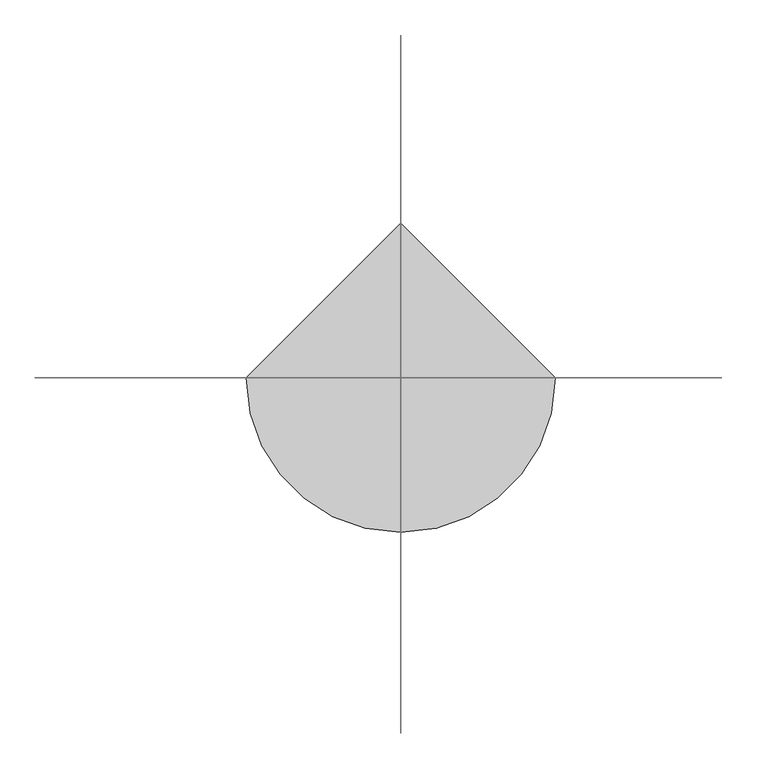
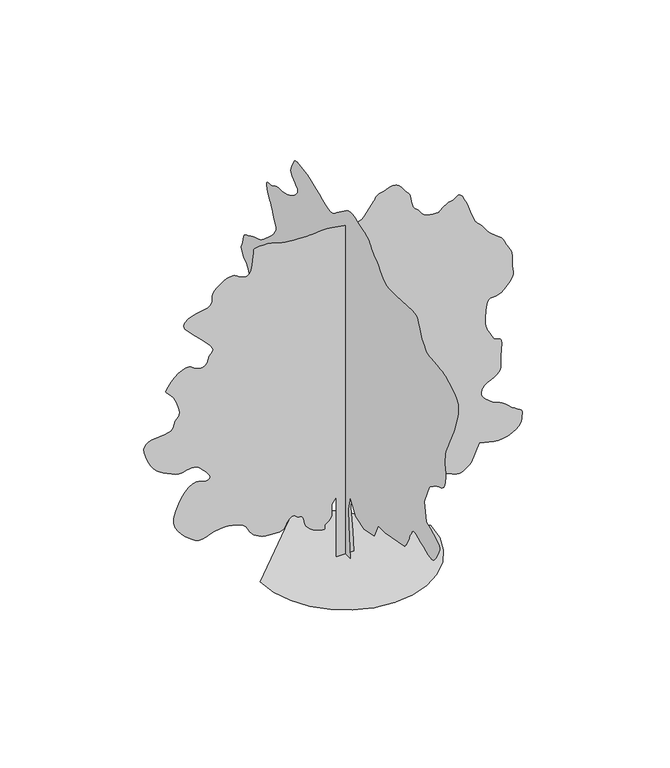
"""IFC4 building model written with IfcOpenShell, lengths in millimetres: geographic element geometry, Vegetacion PAEMFE : JARACANDA."""

from ifc_helpers import new_model, si_unit, origin, place, context, project, spatial, triangles, source, transform, mapped, element, save


def geographic_element_77ae9e36(model_context):
    return source(origin(), model_context, "Body", "Tessellation", [
        triangles([(0.0138004, 244.8060057, 0.0), (0.0138004, -234.8519985, 0.0), (0.0138004, -157.488007, 912.896022), (0.0138004, -142.0147963, 1346.1339672), (0.0138004, -234.8519985, 1748.4280163), (0.0138004, -482.4180101, 1346.1339672), (0.0138004, -884.7100245, 1222.3519878), (0.0138004, -1348.8939732, 1330.6619465), (0.0138004, -1534.5679596, 1717.4819401), (0.0138004, -1859.4979809, 1717.4819401), (0.0138004, -2756.9200928, 1887.6840511), (0.0138004, -2789.9398796, 1927.5160675), (0.0138004, -2822.160006, 1967.6179802), (0.0138004, -2852.7401161, 2008.2599762), (0.0138004, -2880.8799683, 2049.7199455), (0.0138004, -2905.7799019, 2092.2599361), (0.0138004, -2926.6199089, 2136.1600182), (0.0138004, -2942.6000381, 2181.6600025), (0.0138004, -2958.1200211, 2228.5399899), (0.0138004, -2977.6999306, 2276.2199284), (0.0138004, -3000.6598663, 2324.5800579), (0.0138004, -3026.319928, 2373.4799801), (0.0138004, -3054.0199814, 2422.7800232), (0.0138004, -3083.0600693, 2472.3601364), (0.0138004, -3112.8001144, 2522.0600098), (0.0138004, -3126.960006, 2538.120076), (0.0138004, -3146.5399155, 2551.0800407), (0.0138004, -3176.9400948, 2557.7999794), (0.0138004, -3223.5799805, 2555.1800812), (0.0138004, -3291.8798813, 2540.1199539), (0.0138004, -3387.240049, 2509.4799637), (0.0138004, -3515.0799202, 2460.1800659), (0.0138004, -3650.0600533, 2402.1600609), (0.0138004, -3765.0001305, 2350.3799366), (0.0138004, -3862.6200439, 2309.140012), (0.0138004, -3945.6199196, 2282.80005), (0.0138004, -4016.7199402, 2275.6799904), (0.0138004, -4078.599884, 2292.1000637), (0.0138004, -4133.9999908, 2336.399976), (0.0138004, -4189.9000671, 2406.180019), (0.0138004, -4247.6799706, 2491.1200378), (0.0138004, -4301.6798721, 2583.6399719), (0.0138004, -4346.2001198, 2676.159906), (0.0138004, -4375.5599556, 2761.1000702), (0.0138004, -4384.100132, 2830.8998795), (0.0138004, -4366.1000679, 2877.9400314), (0.0138004, -4322.1199036, 2913.3599625), (0.0138004, -4258.6400574, 2952.8200539), (0.0138004, -4178.9399803, 2995.6799377), (0.0138004, -4086.2200584, 3041.2399475), (0.0138004, -3983.7800903, 3088.839949), (0.0138004, -3874.8399376, 3137.779985), (0.0138004, -3762.6598663, 3187.3999214), (0.0138004, -3669.8198936, 3713.4800194), (0.0138004, -3901.8999138, 4255.0199295), (0.0138004, -3909.2201065, 4265.359996), (0.0138004, -3920.5798782, 4277.9798653), (0.0138004, -3940.0801414, 4295.220092), (0.0138004, -3971.7401276, 4319.3598976), (0.0138004, -4019.6401108, 4352.6799568), (0.0138004, -4087.8600746, 4397.5199524), (0.0138004, -4180.4201225, 4456.1800346), (0.0138004, -4280.8398651, 4509.320105), (0.0138004, -4369.8800697, 4544.0400787), (0.0138004, -4447.5599213, 4572.2799248), (0.0138004, -4513.8800011, 4605.9400795), (0.0138004, -4568.8199615, 4656.9201073), (0.0138004, -4612.3998596, 4737.1198631), (0.0138004, -4644.599929, 4858.4601311), (0.0138004, -4663.2400703, 4977.6397751), (0.0138004, -4668.5999176, 5054.0601105), (0.0138004, -4664.4998772, 5103.6797562), (0.0138004, -4654.699894, 5142.4797134), (0.0138004, -4643.0200836, 5186.4200546), (0.0138004, -4633.2398666, 5251.4602707), (0.0138004, -4629.1401169, 5353.5999664), (0.0138004, -4630.5801453, 5466.2797165), (0.0138004, -4636.9001083, 5559.7397095), (0.0138004, -4651.0599998, 5645.1001968), (0.0138004, -4676.0398705, 5733.4198059), (0.0138004, -4714.8401184, 5835.8199509), (0.0138004, -4770.4198654, 5963.3999542), (0.0138004, -4845.7399773, 6127.2399536), (0.0138004, -4917.2597397, 6275.3402161), (0.0138004, -4964.9399689, 6364.6998779), (0.0138004, -4997.1798615, 6419.959877), (0.0138004, -5022.3998337, 6465.7402222), (0.0138004, -5048.980188, 6526.6801071), (0.0138004, -5085.2797165, 6627.4198883), (0.0138004, -5139.7397644, 6792.5598083), (0.0138004, -5198.4199036, 6983.5998917), (0.0138004, -5237.9000519, 7148.1200821), (0.0138004, -5252.1997604, 7289.8998001), (0.0138004, -5235.3600906, 7412.7399765), (0.0138004, -5181.4598923, 7520.4200317), (0.0138004, -5084.5198792, 7616.7199677), (0.0138004, -4938.57995, 7705.4598999), (0.0138004, -4796.9798721, 7778.4002151), (0.0138004, -4703.8399178, 7828.6198242), (0.0138004, -4639.3798988, 7861.7602432), (0.0138004, -4583.839975, 7883.5600754), (0.0138004, -4517.480072, 7899.6602554), (0.0138004, -4420.5400589, 7915.7598541), (0.0138004, -4273.2600952, 7937.5602676), (0.0138004, -4115.2799126, 7954.740033), (0.0138004, -3992.7600655, 7961.379744), (0.0138004, -3895.6799446, 7969.6199387), (0.0138004, -3814.0398697, 7991.68022), (0.0138004, -3737.8000465, 8039.7197296), (0.0138004, -3656.9599228, 8125.9400482), (0.0138004, -3561.5000519, 8262.4799698), (0.0138004, -3478.1400238, 8412.5998764), (0.0138004, -3428.8799492, 8533.2401871), (0.0138004, -3396.6798798, 8627.0600418), (0.0138004, -3364.4600441, 8696.799971), (0.0138004, -3315.1999695, 8745.1598099), (0.0138004, -3231.8399414, 8774.839975), (0.0138004, -3097.3199547, 8788.5600677), (0.0138004, -2354.6199394, 8742.1402267), (0.0138004, -2217.7200108, 8744.5400803), (0.0138004, -2106.2599537, 8744.219751), (0.0138004, -2011.5600655, 8749.8601044), (0.0138004, -1924.9960178, 8770.100148), (0.0138004, -1837.8879627, 8813.6399323), (0.0138004, -1741.5779984, 8889.0998611), (0.0138004, -1627.4040081, 9005.179985), (0.0138004, -1517.3819447, 9122.4199219), (0.0138004, -1434.9640102, 9202.2999298), (0.0138004, -1373.6600487, 9254.8600937), (0.0138004, -1326.9700207, 9290.0998032), (0.0138004, -1288.402026, 9318.020192), (0.0138004, -1251.4560253, 9348.6398346), (0.0138004, -1209.6399731, 9391.9999786), (0.0138004, -1169.4919876, 9443.1997604), (0.0138004, -1136.6500242, 9490.8799896), (0.0138004, -1103.2700123, 9535.3197189), (0.0138004, -1061.497998, 9576.7602127), (0.0138004, -1003.4859867, 9615.5200562), (0.0138004, -921.3840214, 9651.8399323), (0.0138004, -807.3459967, 9685.9802902), (0.0138004, -679.3240145, 9723.600087), (0.0138004, -559.9620051, 9765.2795197), (0.0138004, -448.4479906, 9803.7201965), (0.0138004, -343.9739897, 9831.5998901), (0.0138004, -245.7239911, 9841.6202087), (0.0138004, -152.8863984, 9826.4595062), (0.0138004, -64.6508003, 9778.8205536), (0.0138004, 399.5340068, 9438.4198196), (0.0138004, 449.7859903, 9392.6801697), (0.0138004, 498.4160162, 9351.0001556), (0.0138004, 551.3740119, 9317.4202286), (0.0138004, 614.6199697, 9296.0401382), (0.0138004, 694.1039989, 9290.8997543), (0.0138004, 795.7820223, 9306.0598755), (0.0138004, 925.6099989, 9345.5801376), (0.0138004, 1072.9400322, 9404.2602768), (0.0138004, 1221.3520489, 9470.2597366), (0.0138004, 1368.1400368, 9537.6201599), (0.0138004, 1510.5980564, 9600.359935), (0.0138004, 1646.020023, 9652.5602371), (0.0138004, 1771.6959274, 9688.240036), (0.0138004, 1884.9240452, 9701.4601593), (0.0138004, 1987.9100555, 9708.6800674), (0.0138004, 2083.5799427, 9725.0999954), (0.0138004, 2170.3400539, 9742.8599579), (0.0138004, 2246.519997, 9754.139502), (0.0138004, 2310.5400719, 9751.079805), (0.0138004, 2360.74006, 9725.8197189), (0.0138004, 2395.5200592, 9670.4998398), (0.0138004, 2426.5999935, 9601.0000122), (0.0138004, 2462.2799377, 9536.899855), (0.0138004, 2495.7999847, 9476.0401978), (0.0138004, 2520.3999367, 9416.2601257), (0.0138004, 2529.2799179, 9355.4202347), (0.0138004, 2515.6999329, 9291.3200775), (0.0138004, 2472.899929, 9221.7999023), (0.0138004, 2407.4000027, 9158.0997208), (0.0138004, 2337.2800095, 9108.1998596), (0.0138004, 2273.1400291, 9065.0798172), (0.0138004, 2225.5000591, 9021.6801407), (0.0138004, 2204.9399769, 8970.979747), (0.0138004, 2221.9800705, 8905.9401123), (0.0138004, 2287.2199837, 8819.5000397), (0.0138004, 2377.2999504, 8733.379715), (0.0138004, 2462.2401146, 8670.5597122), (0.0138004, 2542.5799782, 8625.8397675), (0.0138004, 2618.8599152, 8594.1399582), (0.0138004, 2691.6200089, 8570.2600204), (0.0138004, 2761.4201088, 8549.1200317), (0.0138004, 2828.7598938, 8525.5197281), (0.0138004, 2896.0200325, 8507.3400238), (0.0138004, 2965.1800552, 8501.3398087), (0.0138004, 3036.2199051, 8500.7601929), (0.0138004, 3109.1599297, 8498.820195), (0.0138004, 3184.0001289, 8488.7597626), (0.0138004, 3260.7399216, 8463.8002396), (0.0138004, 3339.3601227, 8417.2199432), (0.0138004, 3420.6199883, 8375.8399109), (0.0138004, 3500.4999962, 8361.000119), (0.0138004, 3571.9999924, 8357.5200989), (0.0138004, 3628.0799995, 8350.2600769), (0.0138004, 3661.6799835, 8324.0599319), (0.0138004, 3665.780024, 8263.7397766), (0.0138004, 3633.3599098, 8154.1801849), (0.0138004, 3585.4398697, 8038.880246), (0.0138004, 3545.6600304, 7961.2001038), (0.0138004, 3510.7400688, 7905.7000031), (0.0138004, 3477.4601234, 7856.9797211), (0.0138004, 3442.5398712, 7799.6000839), (0.0138004, 3402.739975, 7718.1399399), (0.0138004, 3354.8399918, 7597.1601151), (0.0138004, 3304.2201164, 7478.1598206), (0.0138004, 3260.6599846, 7402.9998734), (0.0138004, 3227.3599823, 7356.7997864), (0.0138004, 3207.6001419, 7324.6802353), (0.0138004, 3204.6200912, 7291.7601517), (0.0138004, 3221.6800964, 7243.1200974), (0.0138004, 3262.0000191, 7163.9202805), (0.0138004, 3333.77994, 7058.9400604), (0.0138004, 3434.499955, 6947.4800034), (0.0138004, 3551.480024, 6836.2798141), (0.0138004, 3671.9598793, 6732.1198929), (0.0138004, 3783.2600624, 6641.7597107), (0.0138004, 3872.620015, 6571.980249), (0.0138004, 3927.3399307, 6529.52005), (0.0138004, 3975.920105, 6502.9600433), (0.0138004, 4048.8601295, 6476.1198212), (0.0138004, 4136.4199013, 6448.740097), (0.0138004, 4228.8598984, 6420.5400742), (0.0138004, 4316.4199608, 6391.2598846), (0.0138004, 4389.3599854, 6360.640242), (0.0138004, 4437.9398689, 6328.3800018), (0.0138004, 4478.619944, 6301.5798935), (0.0138004, 4530.4199799, 6282.6397705), (0.0138004, 4587.340052, 6264.2397308), (0.0138004, 4643.4598824, 6239.0598724), (0.0138004, 4692.8199509, 6199.8198257), (0.0138004, 4729.4400993, 6139.1799225), (0.0138004, 4747.4000496, 6049.8597931), (0.0138004, 4762.1000244, 5960.1402695), (0.0138004, 4787.3601105, 5896.6801895), (0.0138004, 4814.7799484, 5849.7202652), (0.0138004, 4835.9998741, 5809.519812), (0.0138004, 4842.5799957, 5766.3602371), (0.0138004, 4826.1600677, 5710.4601608), (0.0138004, 4778.3400215, 5632.0998276), (0.0138004, 4718.979982, 5558.700238), (0.0138004, 4670.9800049, 5514.8197769), (0.0138004, 4630.5600883, 5486.3598862), (0.0138004, 4593.919883, 5459.2400299), (0.0138004, 4557.3000252, 5419.4000198), (0.0138004, 4516.8801086, 5352.780249), (0.0138004, 4468.8801315, 5245.279834), (0.0138004, 4416.5600693, 5137.5997787), (0.0138004, 4368.5600922, 5069.7202011), (0.0138004, 4329.2200516, 5026.460051), (0.0138004, 4302.8800896, 4992.6597885), (0.0138004, 4293.8600006, 4953.1999878), (0.0138004, 4306.4798698, 4892.8798325), (0.0138004, 4345.0998962, 4796.5798965), (0.0138004, 4396.3999626, 4691.2401054), (0.0138004, 4444.6999214, 4609.4599228), (0.0138004, 4490.8598946, 4544.4601112), (0.0138004, 4535.6400101, 4489.45998), (0.0138004, 4579.9000992, 4437.7201149), (0.0138004, 4624.4200562, 4382.4601158), (0.0138004, 4670.0198891, 4316.9199303), (0.0138004, 4722.9399147, 4252.2799805), (0.0138004, 4784.5198769, 4199.5398857), (0.0138004, 4848.2598816, 4151.6800163), (0.0138004, 4907.6800919, 4101.6400475), (0.0138004, 4956.2602661, 4042.4201157), (0.0138004, 4987.519986, 3966.9401299), (0.0138004, 4994.9602295, 3868.1999359), (0.0138004, 5001.2197311, 3790.6599014), (0.0138004, 5024.2799515, 3765.0800674), (0.0138004, 5050.5800903, 3763.8600838), (0.0138004, 5066.6000427, 3759.3998909), (0.0138004, 5058.7801712, 3724.0799538), (0.0138004, 5013.6399033, 3630.2999222), (0.0138004, 4917.5998352, 3450.4399704), (0.0138004, 4817.1800926, 3248.6999588), (0.0138004, 4756.5599556, 3100.3000053), (0.0138004, 4718.6599434, 2994.1000923), (0.0138004, 4686.459874, 2919.040139), (0.0138004, 4642.8799759, 2863.999894), (0.0138004, 4570.8800102, 2817.9000916), (0.0138004, 4453.4200287, 2769.6399559), (0.0138004, 4317.8001091, 2730.4801369), (0.0138004, 4198.4399529, 2714.0599182), (0.0138004, 4088.8198997, 2712.8001114), (0.0138004, 3982.4601128, 2719.1200745), (0.0138004, 3872.8400597, 2725.4199806), (0.0138004, 3753.4799034, 2724.1598831), (0.0138004, 3617.8800407, 2707.7399551), (0.0138004, 3482.6400398, 2693.0399803), (0.0138004, 3365.8000786, 2696.1999619), (0.0138004, 3263.0400719, 2708.5599632), (0.0138004, 3170.0198776, 2721.4600479), (0.0138004, 3082.4199921, 2726.2399887), (0.0138004, 2995.8999825, 2714.2401398), (0.0138004, 2906.1199974, 2676.7999832), (0.0138004, 2820.1999512, 2637.000087), (0.0138004, 2749.1400444, 2616.16008), (0.0138004, 2694.6000595, 2602.9001335), (0.0138004, 2658.1999557, 2585.8598946), (0.0138004, 2641.5599831, 2553.6400589), (0.0138004, 2646.3001007, 2494.9200966), (0.0138004, 2674.0399773, 2398.2800652), (0.0138004, 2718.7799789, 2295.6200523), (0.0138004, 2772.4601326, 2222.9800095), (0.0138004, 2833.6000053, 2175.4000648), (0.0138004, 2900.6799225, 2147.8399738), (0.0138004, 2972.2200325, 2135.3000416), (0.0138004, 3046.7399025, 2132.759935), (0.0138004, 3122.7399147, 2135.2400162), (0.0138004, 3416.7399925, 1810.3200233), (0.0138004, 3439.7798653, 1773.7340298), (0.0138004, 3461.8799698, 1736.4739494), (0.0138004, 3482.0999565, 1697.8600273), (0.0138004, 3499.4599434, 1657.2139618), (0.0138004, 3513.0399284, 1613.8639915), (0.0138004, 3521.8800865, 1567.1300709), (0.0138004, 3525.0400681, 1516.3359329), (0.0138004, 3524.4999847, 1463.3759388), (0.0138004, 3520.7199829, 1410.9580627), (0.0138004, 3510.4200302, 1359.6239868), (0.0138004, 3490.4000313, 1309.9120502), (0.0138004, 3457.3799538, 1262.3659698), (0.0138004, 3408.1198792, 1217.5259743), (0.0138004, 3339.3601227, 1175.9340363), (0.0138004, 3273.780114, 1140.6119917), (0.0138004, 3227.6800209, 1113.1399767), (0.0138004, 3188.3399803, 1091.8940351), (0.0138004, 3143.0401291, 1075.2480309), (0.0138004, 3079.0800797, 1061.5799698), (0.0138004, 2983.719912, 1049.2640064), (0.0138004, 2844.2400536, 1036.6780014), (0.0138004, 2685.5799706, 1038.4820337), (0.0138004, 2539.3798828, 1066.2700178), (0.0138004, 2402.9200436, 1113.8179876), (0.0138004, 2273.5000362, 1174.8960182), (0.0138004, 2148.4200256, 1243.2839951), (0.0138004, 2024.9400627, 1312.7540279), (0.0138004, 1900.3960659, 1377.0800434), (0.0138004, 1789.3339497, 1435.5879547), (0.0138004, 1703.4439888, 1490.8479538), (0.0138004, 1635.6879501, 1541.507943), (0.0138004, 1579.0300713, 1586.2120457), (0.0138004, 1526.4319736, 1623.6080189), (0.0138004, 1470.8560055, 1652.3440556), (0.0138004, 1405.2659683, 1671.0639885), (0.0138004, 1333.134034, 1686.8519783), (0.0138004, 1262.0860451, 1706.4299984), (0.0138004, 1191.3080252, 1727.9039783), (0.0138004, 1119.9899946, 1749.3760689), (0.0138004, 1047.3160149, 1768.9539436), (0.0138004, 972.4779957, 1784.7419334), (0.0138004, 894.6639954, 1794.8459679), (0.0138004, 815.0900007, 1800.1239887), (0.0138004, 735.5139713, 1802.9659664), (0.0138004, 655.9399767, 1803.7779808), (0.0138004, 576.3659821, 1802.9659664), (0.0138004, 496.7919874, 1800.9360031), (0.0138004, 417.2159944, 1798.0940254), (0.0138004, 337.6419997, 1794.8459679), (0.0138004, 182.9143983, 1562.7540298), (0.0138004, 151.9684039, 1206.8799671), (224.3560003, 0.0004806, 0.0073698), (-239.8280029, 0.0004806, 0.0073698), (-239.8280029, 0.0003805, 1702.0160236), (-363.6119988, 0.0003805, 1531.8159473), (-363.6119988, 0.0004005, 1346.1419609), (-360.7699848, 0.0004005, 1303.0620323), (-360.7699848, 0.0004005, 1260.1159618), (-366.4540129, 0.0004005, 1217.4419678), (-380.6620119, 0.0004206, 1175.1739809), (-406.2399928, 0.0004206, 1133.4479668), (-446.0280075, 0.0004206, 1092.3959667), (-502.8659989, 0.0004206, 1052.1580158), (-547.3899891, 0.0004206, 1010.3860016), (-559.7059888, 0.0004206, 968.0720146), (-556.8640111, 0.0004206, 930.3620344), (-555.9159948, 0.0004206, 902.392012), (-573.9159863, 0.0004206, 889.3100344), (-627.9120363, 0.0004206, 896.2580114), (-734.9579733, 0.0004206, 928.3759638), (-857.0720312, 0.0004206, 978.4040148), (-948.3299784, 0.0004206, 1034.9260008), (-1013.8740154, 0.0004206, 1096.8640079), (-1058.8499765, 0.0004206, 1163.1300213), (-1088.3980276, 0.0004005, 1232.6439468), (-1107.660006, 0.0004005, 1304.3240192), (-1121.7800016, 0.0004005, 1377.0880371), (-1125.3879936, 0.0004005, 1396.8900261), (-1130.7559799, 0.0004005, 1416.1519318), (-1139.6419928, 0.0004005, 1434.3339615), (-1153.8079885, 0.0004005, 1450.8880383), (-1175.0080027, 0.0004005, 1465.2780029), (-1205.0079884, 0.0004005, 1476.9620281), (-1245.5620537, 0.0004005, 1485.3979958), (-1286.1159737, 0.0004005, 1499.2900257), (-1318.0080677, 0.0004005, 1522.6579308), (-1345.8419792, 0.0003805, 1547.9200516), (-1374.215974, 0.0003805, 1567.4980717), (-1407.7339863, 0.0003805, 1573.8139652), (-1450.9939911, 0.0003805, 1559.2879623), (-1508.6000679, 0.0004005, 1516.3420372), (-1559.2580223, 0.0004005, 1456.2560246), (-1587.994059, 0.0004005, 1397.5219643), (-1608.8799934, 0.0004005, 1343.3899487), (-1635.9899666, 0.0004005, 1297.1060005), (-1683.4020435, 0.0004005, 1261.9219563), (-1765.186005, 0.0004005, 1241.0800598), (-1895.4200615, 0.0004005, 1237.8320023), (-2039.3199989, 0.0004005, 1247.3959534), (-2156.1599602, 0.0004005, 1263.1839432), (-2251.0599815, 0.0004005, 1285.7399792), (-2329.1999794, 0.0004005, 1315.6019646), (-2395.6999901, 0.0004005, 1353.3140522), (-2455.6800499, 0.0004005, 1399.4180695), (-2514.3401321, 0.0004005, 1454.4520649), (-2564.0801193, 0.0004005, 1514.8079739), (-2599.7799751, 0.0003805, 1575.437994), (-2630.0400467, 0.0003805, 1634.7119923), (-2663.5600937, 0.0003805, 1691.0100094), (-2708.9799957, 0.0003805, 1742.7059818), (-2774.9800369, 0.0003805, 1788.1780609), (-2870.2000969, 0.0003805, 1825.8000378), (-2965.9398926, 0.0003805, 1854.3980015), (-3035.399897, 0.0003605, 1874.6079597), (-3090.2599205, 0.0003605, 1887.5099339), (-3142.1398933, 0.0003605, 1894.1859798), (-3202.6600365, 0.0003605, 1895.7200432), (-3283.4998695, 0.0003605, 1893.1940346), (-3396.2799042, 0.0003605, 1887.6900101), (-3520.2798935, 0.0003605, 1868.1580627), (-3630.49991, 0.0003805, 1831.8440002), (-3732.039933, 0.0003805, 1792.2820255), (-3830.0601128, 0.0003805, 1763.0060509), (-3929.720018, 0.0003805, 1757.5479538), (-4036.1199188, 0.0003805, 1789.4400478), (-4154.4400223, 0.0003605, 1872.2179893), (-4278.2400238, 0.0003605, 1982.9180637), (-4392.5400238, 0.0003605, 2092.8000195), (-4489.8000755, 0.0003405, 2206.7600693), (-4562.4200615, 0.0003405, 2329.6400688), (-4602.839978, 0.0003405, 2466.3200981), (-4603.4800552, 0.0003204, 2621.6800919), (-4556.7398849, 0.0003204, 2800.5799278), (-4478.5199501, 0.0003004, 2981.0200768), (-4391.3598633, 0.0003004, 3135.7600502), (-4297.7199394, 0.0002804, 3261.8000313), (-4200.020089, 0.0002804, 3356.1599693), (-4100.6799316, 0.0002804, 3415.8798706), (-4002.1600731, 0.0002804, 3438.000032), (-3906.8801331, 0.0002804, 3419.4999985), (-3817.0199203, 0.0002804, 3388.3800957), (-3737.459951, 0.0002804, 3375.1000923), (-3674.6600052, 0.0002804, 3380.5201103), (-3635.1400337, 0.0002804, 3405.4200439), (-3625.3999306, 0.0002804, 3450.6199013), (-3651.9201141, 0.0002804, 3516.9399811), (-3721.199897, 0.0002603, 3605.1799438), (-3801.9999069, 0.0002603, 3693.6800652), (-3863.5798691, 0.0002603, 3761.8799721), (-3913.2399193, 0.0002603, 3812.2199226), (-3958.2999596, 0.0002603, 3847.1398842), (-4006.079892, 0.0002603, 3869.0600578), (-4063.8600861, 0.0002403, 3880.4398865), (-4138.9799194, 0.0002403, 3883.6800957), (-4216.0199844, 0.0002603, 3876.4200737), (-4279.8198692, 0.0002603, 3859.6801071), (-4337.9201019, 0.0002603, 3841.0600227), (-4397.919928, 0.0002603, 3828.100058), (-4467.3799324, 0.0002603, 3828.4200966), (-4553.899942, 0.0002603, 3849.5801422), (-4665.0600174, 0.0002403, 3899.1599648), (-4783.0199684, 0.0002403, 3958.4798904), (-4886.8999649, 0.0002403, 4009.9401215), (-4979.7001144, 0.0002403, 4062.7799194), (-5064.3600632, 0.0002403, 4126.1600624), (-5143.8999756, 0.0002403, 4209.2799889), (-5221.2597885, 0.0002203, 4321.3801231), (-5299.4399002, 0.0002203, 4471.6599037), (-5364.0801407, 0.0002003, 4627.6000946), (-5399.7599396, 0.0002003, 4752.9598846), (-5407.8402603, 0.0002003, 4851.2599892), (-5389.6599747, 0.0001802, 4925.9999039), (-5346.5800461, 0.0001802, 4980.7198196), (-5279.9602753, 0.0001802, 5018.9198135), (-5191.1197678, 0.0001802, 5044.1397858), (-5086.240123, 0.0001802, 5058.6197159), (-4975.4201431, 0.0001802, 5067.1598923), (-4865.9201408, 0.0001802, 5077.0197556), (-4765.100132, 0.0001802, 5095.559903), (-4680.2599617, 0.0001802, 5130.0798889), (-4618.6799995, 0.0001802, 5187.860083), (-4587.6798569, 0.0001602, 5276.2401535), (-4564.7800919, 0.0001602, 5361.5797119), (-4529.399984, 0.0001602, 5417.1600403), (-4491.8798904, 0.0001602, 5460.5597168), (-4462.4598839, 0.0001602, 5509.3602264), (-4451.4599739, 0.0001402, 5581.1802612), (-4469.1399994, 0.0001402, 5693.6001434), (-4525.799913, 0.0001402, 5864.2001953), (-4606.0400734, 0.0001202, 6032.2399384), (-4682.779866, 0.0001202, 6138.0201096), (-4748.6799133, 0.0001202, 6200.7802322), (-4796.4601364, 0.0001001, 6239.6999496), (-4818.779995, 0.0001001, 6274.0199478), (-4808.3599915, 0.0001001, 6322.9797501), (-4757.8799332, 0.0001001, 6405.7601624), (-4676.5200737, 0.0001001, 6509.0602524), (-4582.4200035, 8.01e-05, 6603.1597412), (-4481.8200394, 8.01e-05, 6682.6397736), (-4380.9398598, 8.01e-05, 6742.1000977), (-4286.0401291, 8.01e-05, 6776.0997665), (-4203.3001213, 8.01e-05, 6779.2600388), (-4138.9799194, 8.01e-05, 6746.1597336), (-4075.9201057, 8.01e-05, 6696.7999557), (-3998.2399635, 8.01e-05, 6658.2802139), (-3914.0599274, 8.01e-05, 6635.7199631), (-3831.5001411, 8.01e-05, 6634.2799347), (-3758.6999336, 8.01e-05, 6659.0999313), (-3703.7599731, 8.01e-05, 6715.2999893), (-3674.8001129, 8.01e-05, 6808.0402588), (-3648.2598724, 8.01e-05, 6896.4598618), (-3606.5798584, 6.01e-05, 6948.8799179), (-3566.8000191, 6.01e-05, 6984.2399689), (-3545.9600121, 6.01e-05, 7021.4999039), (-3561.1201332, 6.01e-05, 7079.5998459), (-3629.3200401, 6.01e-05, 7177.5002655), (-3767.6400856, 4.01e-05, 7334.1197754), (-3941.0800804, 4.01e-05, 7511.0397903), (-4096.1200356, 2e-05, 7660.0801117), (-4221.9399719, 2e-05, 7785.5800095), (-4307.6800873, 2e-05, 7891.8601501), (-4342.559935, 0.0, 7983.2598038), (-4315.7200035, 0.0, 8064.1002182), (-4216.340023, 0.0, 8138.6997345), (-4083.7998573, 0.0, 8196.1799469), (-3965.080069, 0.0, 8229.0198029), (-3860.700103, 0.0, 8246.700119), (-3771.2000427, -2e-05, 8258.699968), (-3697.1199715, -2e-05, 8274.4798187), (-3639.0200294, -2e-05, 8303.5402542), (-3597.4199524, -2e-05, 8355.3202332), (-3576.6799393, -2e-05, 8416.579866), (-3573.5199577, -2e-05, 8470.259729), (-3577.1200287, -2e-05, 8520.1601715), (-3576.6799393, -2e-05, 8570.0600327), (-3561.3398872, -4.01e-05, 8623.7398956), (-3520.2798935, -4.01e-05, 8685.0001099), (-3442.7000359, -4.01e-05, 8757.6200958), (-3347.7401344, -4.01e-05, 8829.4802444), (-3260.9000862, -4.01e-05, 8885.3797394), (-3180.8398567, -6.01e-05, 8924.4802597), (-3106.179879, -6.01e-05, 8945.9998764), (-3035.5801186, -6.01e-05, 8949.1200348), (-2967.6799026, -6.01e-05, 8933.0000885), (-2901.1601257, -4.01e-05, 8896.8802002), (-2832.5800095, -4.01e-05, 8852.720105), (-2761.8599075, -4.01e-05, 8818.3001129), (-2692.4801308, -4.01e-05, 8801.4598618), (-2627.9599411, -4.01e-05, 8810.0802658), (-2571.8401108, -4.01e-05, 8851.9800339), (-2527.6399017, -6.01e-05, 8935.0400803), (-2498.8599724, -6.01e-05, 9067.0802765), (-2481.6799164, -6.01e-05, 9208.8599945), (-2469.3600288, -8.01e-05, 9318.4201675), (-2461.1000679, -8.01e-05, 9399.5797485), (-2456.1000824, -8.01e-05, 9456.1001358), (-2453.5200073, -8.01e-05, 9491.7799347), (-2452.5799484, -8.01e-05, 9510.420076), (-2452.4401314, -8.01e-05, 9515.7802139), (-2432.0999485, -8.01e-05, 9518.9399048), (-2376.8399494, -8.01e-05, 9525.8999451), (-2295.3200706, -8.01e-05, 9532.8402191), (-2196.220015, -8.01e-05, 9535.99991), (-2088.1799526, -8.01e-05, 9531.5798309), (-1979.8660698, -8.01e-05, 9515.7802139), (-1879.9480408, -8.01e-05, 9484.840242), (-1788.3280518, -8.01e-05, 9450.4202499), (-1696.4380211, -8.01e-05, 9425.4799118), (-1600.2180222, -8.01e-05, 9408.1001587), (-1495.6059483, -8.01e-05, 9396.4200577), (-1378.5459423, -8.01e-05, 9388.5397247), (-1244.9740082, -8.01e-05, 9382.5400909), (-1090.832036, -8.01e-05, 9376.5398758), (-942.0600122, -8.01e-05, 9375.6800446), (-819.5400198, -8.01e-05, 9382.9400665), (-711.6359957, -8.01e-05, 9393.1801392), (-606.7099874, -8.01e-05, 9401.2598785), (-493.1240064, -8.01e-05, 9402.0197159), (-359.2359941, -8.01e-05, 9390.3401962), (-193.4105963, -8.01e-05, 9361.0600067), (-25.7806007, -8.01e-05, 9326.2400391), (109.3699957, -8.01e-05, 9302.2397598), (217.4540052, -8.01e-05, 9290.4201324), (303.8859933, -8.01e-05, 9292.1200287), (374.0780025, -8.01e-05, 9308.7399445), (433.4420025, -8.01e-05, 9341.5798004), (487.3940145, -8.01e-05, 9391.9999786), (719.4860252, -0.0001001, 9685.9802902), (754.3120245, -0.0001001, 9731.3199646), (782.1000086, -0.0001001, 9773.9603851), (807.1800184, -0.0001001, 9813.0603241), (833.8860191, -0.0001001, 9847.8395966), (866.5460169, -0.0001001, 9877.4796478), (909.4920147, -0.0001001, 9901.1595978), (967.0520187, -0.0001001, 9918.0794952), (1037.604035, -0.0001202, 9937.4794739), (1114.652021, -0.0001202, 9963.3802185), (1195.2180336, -0.0001202, 9987.0997009), (1276.3280537, -0.0001202, 10000.0000763), (1354.9999958, -0.0001202, 9993.4202454), (1428.2580242, -0.0001202, 9958.6805054), (1493.1280472, -0.0001001, 9887.1395233), (1550.7319439, -0.0001001, 9805.5398529), (1603.4659344, -0.0001001, 9742.0600067), (1650.2459278, -0.0001001, 9690.2201477), (1689.9879787, -0.0001001, 9643.5398575), (1721.6100311, -0.0001001, 9595.4997665), (1744.0300289, -8.01e-05, 9539.6002716), (1756.1640266, -8.01e-05, 9469.3597916), (1764.5999943, -8.01e-05, 9396.5601654), (1776.2840195, -8.01e-05, 9335.9400284), (1790.6739841, -8.01e-05, 9285.4599701), (1807.2280609, -6.01e-05, 9243.099765), (1825.4080559, -6.01e-05, 9206.8200027), (1844.6699615, -6.01e-05, 9174.620224), (1864.4739853, -6.01e-05, 9144.4400894), (1884.5019779, -6.01e-05, 9130.8601044), (1905.3440197, -6.01e-05, 9115.3802353), (1927.8080555, -6.01e-05, 9096.119783), (1952.7100239, -6.01e-05, 9071.1800262), (1980.8580151, -6.01e-05, 9038.6599182), (2013.0599739, -6.01e-05, 8996.6601562), (2050.139978, -6.01e-05, 8943.3000412), (2105.0999954, -4.01e-05, 8892.5798813), (2182.7799923, -4.01e-05, 8857.8599075), (2271.8200516, -4.01e-05, 8836.1001892), (2360.8599655, -4.01e-05, 8824.3799744), (2438.5401077, -4.01e-05, 8819.6802612), (2493.5001251, -4.01e-05, 8819.0599503), (2514.3401321, -4.01e-05, 8819.5198059), (2525.0200035, -4.01e-05, 8830.6598236), (2554.3998962, -4.01e-05, 8859.3801636), (2598.3800606, -4.01e-05, 8898.6800903), (2652.9200455, -6.01e-05, 8941.4798035), (2713.9398674, -6.01e-05, 8980.7797302), (2777.4200043, -6.01e-05, 9009.5198364), (2839.260125, -6.01e-05, 9020.6598541), (2894.7000549, -6.01e-05, 9034.2398392), (2943.6400909, -6.01e-05, 9064.8600632), (2989.0800499, -6.01e-05, 9097.3801712), (3033.9598686, -6.01e-05, 9116.6598083), (3081.2799454, -6.01e-05, 9107.4999023), (3134.0200401, -6.01e-05, 9054.7600983), (3195.139856, -6.01e-05, 8943.3000412), (3252.7000053, -4.01e-05, 8812.3400116), (3295.6401169, -4.01e-05, 8706.5598404), (3328.300042, -4.01e-05, 8618.9000748), (3354.9998657, -2e-05, 8542.3599792), (3380.0800209, -2e-05, 8469.8597534), (3407.8800682, -2e-05, 8394.3998245), (3442.7000359, -2e-05, 8308.8998108), (3478.4801193, 0.0, 8233.8799713), (3509.1000526, 0.0, 8186.1997421), (3538.9200348, 0.0, 8153.4197662), (3572.2598602, 0.0, 8123.0599915), (3613.4399048, 0.0, 8082.6798981), (3666.8000198, 0.0, 8019.8401291), (3736.6800568, 0.0, 7922.0798172), (3822.7000969, 2e-05, 7813.2800629), (3917.119915, 2e-05, 7722.3402649), (4013.1599831, 2e-05, 7644.3799072), (4104.0599579, 4.01e-05, 7574.5597504), (4183.0400208, 4.01e-05, 7507.9800934), (4243.3598854, 4.01e-05, 7439.7598389), (4278.2400238, 4.01e-05, 7365.0597473), (4305.6200386, 4.01e-05, 7291.8002655), (4343.8200325, 6.01e-05, 7226.1199722), (4386.6400932, 6.01e-05, 7160.4402603), (4427.8201378, 6.01e-05, 7087.1801971), (4461.1599632, 6.01e-05, 6998.7797791), (4480.4201248, 8.01e-05, 6887.620285), (4479.380072, 8.01e-05, 6746.1597336), (4477.2601433, 8.01e-05, 6610.2000092), (4488.9399536, 0.0001001, 6511.0397827), (4501.6999306, 0.0001001, 6434.3601608), (4502.8399773, 0.0001001, 6365.7800446), (4479.6001167, 0.0001001, 6290.9997253), (4419.3000183, 0.0001202, 6195.6200821), (4309.1799957, 0.0001202, 6065.3402435), (4178.4998909, 0.0001202, 5955.9597107), (4065.1399498, 0.0001202, 5912.0600647), (3969.3600403, 0.0001202, 5902.5397156), (3891.460144, 0.0001202, 5896.2802139), (3831.680072, 0.0001402, 5862.1200897), (3790.3200966, 0.0001402, 5768.9798447), (3767.6200287, 0.0001402, 5585.6997528), (3759.140023, 0.0001602, 5382.8801559), (3760.4198868, 0.0001602, 5240.1400314), (3771.6799553, 0.0001802, 5139.919986), (3793.2600334, 0.0001802, 5064.5798172), (3825.3798752, 0.0001802, 4996.5601318), (3868.3199867, 0.0001802, 4918.2399124), (3922.3600021, 0.0002003, 4812.0600563), (3984.0199013, 0.0002003, 4719.7200531), (4046.2399406, 0.0002003, 4677.7200005), (4103.8399132, 0.0002003, 4660.6198814), (4151.7000732, 0.0002003, 4642.9799698), (4184.6800369, 0.0002003, 4599.3599579), (4197.6199448, 0.0002203, 4504.3000626), (4185.4000511, 0.0002203, 4332.40009), (4168.7999016, 0.0002403, 4142.8799721), (4166.2599403, 0.0002403, 4004.2599449), (4169.160054, 0.0002403, 3904.8799644), (4168.7999016, 0.0002603, 3833.1201004), (4156.5201279, 0.0002603, 3777.320018), (4123.6799812, 0.0002603, 3725.8400208), (4061.6201065, 0.0002603, 3667.0598877), (3986.6400902, 0.0002603, 3611.9399963), (3920.3200104, 0.0002603, 3574.6800613), (3861.8599159, 0.0002603, 3548.5200302), (3810.4400894, 0.0002804, 3526.6800842), (3765.2399414, 0.0002804, 3502.4199371), (3725.4601021, 0.0002804, 3468.940004), (3690.2599251, 0.0002804, 3419.4999985), (3662.3000038, 0.0002804, 3362.2598877), (3646.5000961, 0.0002804, 3308.2599861), (3645.5998604, 0.0002804, 3255.0800926), (3662.3000038, 0.0003004, 3200.2598923), (3699.280014, 0.0003004, 3141.4001129), (3759.2801308, 0.0003004, 3076.020092), (3844.9998985, 0.0003004, 3001.740033), (3935.8399933, 0.0003004, 2936.6399368), (4012.9001152, 0.0003004, 2894.0000977), (4081.279953, 0.0003204, 2864.0998878), (4146.1600044, 0.0003204, 2837.1800194), (4212.6399582, 0.0003204, 2803.4800415), (4285.9000214, 0.0003204, 2753.2601418), (4371.0599396, 0.0003204, 2676.7999832), (4461.4800018, 0.0003204, 2597.8199203), (4544.8400299, 0.0003204, 2541.3001144), (4617.9198715, 0.0003405, 2499.3799988), (4677.4601326, 0.0003405, 2464.2399925), (4720.2200226, 0.0003405, 2428.019965), (4742.9599136, 0.0003405, 2382.8599308), (4742.420121, 0.0003405, 2320.9199615), (4733.5401398, 0.0003405, 2250.5999805), (4728.1599449, 0.0003605, 2184.5999393), (4718.4599556, 0.0003605, 2121.5799488), (4696.5798958, 0.0003605, 2060.1999744), (4654.6801277, 0.0003605, 1999.0679501), (4584.9000847, 0.0003605, 1936.8599739), (4479.380072, 0.0003605, 1872.2179893), (4353.3799141, 0.0003805, 1819.8899334), (4227.4001038, 0.0003805, 1792.7340328), (4101.3999458, 0.0003805, 1786.5540321), (3975.4000786, 0.0003805, 1797.1539665), (3849.4199776, 0.0003805, 1820.3400513), (3723.4201103, 0.0003805, 1851.9180656), (3597.4199524, 0.0003605, 1887.6900101), (3380.8000351, 0.0004005, 1408.033968), (3327.7201355, 0.0004005, 1362.0200615), (3274.3399635, 0.0004005, 1318.4439423), (3220.4400558, 0.0004005, 1279.7400547), (3165.7201401, 0.0004005, 1248.3419712), (3109.9200577, 0.0004005, 1226.6899498), (3052.7598839, 0.0004005, 1217.2179989), (2993.9800415, 0.0004005, 1222.3599815), (2946.0800583, 0.0004005, 1234.041972), (2915.7601067, 0.0004005, 1243.8320721), (2894.1198578, 0.0004005, 1253.6220268), (2872.1999748, 0.0004005, 1265.3040173), (2841.0600151, 0.0004005, 1280.7779274), (2791.7999405, 0.0004005, 1301.9340488), (2715.4798897, 0.0004005, 1330.6699402), (2616.0600861, 0.0004005, 1372.396027), (2507.4399719, 0.0004005, 1427.6560261), (2395.5600277, 0.0004005, 1491.0360237), (2286.3999756, 0.0003805, 1557.1219608), (2185.8799484, 0.0003805, 1620.5019585), (2100.000016, 0.0003805, 1675.7619576), (2034.6800205, 0.0003805, 1717.4899338), (1979.3700245, 0.0003805, 1754.2539688), (1920.0060608, 0.0003805, 1797.5139736), (1857.2559666, 0.0003805, 1846.1900723), (1791.8019676, 0.0003605, 1899.193959), (1724.3159706, 0.0003605, 1955.4460487), (1655.4780212, 0.0003605, 2013.8600704), (1585.9639503, 0.0003605, 2073.3600723), (1570.4900402, 0.0003405, 2305.460004), (1261.0339291, 0.0003405, 2336.399976), (704.0119698, 0.0003405, 2289.9799896), (332.6659953, 0.0003605, 2088.8399414), (177.9371949, 0.0003805, 1717.4899338), (146.9918, 0.0004005, 1284.2499538), (193.409797, 0.0004406, 572.5020101), (-2284.7199909, 0.0, 0.0179438), (-2224.3200439, -523.5080166, 0.0179438), (-2052.3000206, -1004.2679884, 0.0179438), (-1782.4400391, -1428.50205, 0.0179438), (-1428.50205, -1782.4400391, 0.0179438), (-1004.2679884, -2052.3000206, 0.0179438), (-523.5080166, -2224.3200439, 0.0179438), (9.99e-05, -2284.7199909, 0.0179438), (523.5080166, -2224.3200439, 0.0179438), (1004.2679884, -2052.3000206, 0.0179438), (1428.50205, -1782.4400391, 0.0179438), (1782.4400391, -1428.50205, 0.0179438), (2052.3000206, -1004.2679884, 0.0179438), (2224.3200439, -523.5080166, 0.0179438), (2284.7199909, 0.0002003, 0.0179438), (-0.0002996, 2284.7199909, 0.0179438)], [[1, 2, 3], [368, 1, 3], [368, 3, 4], [367, 368, 4], [367, 4, 5], [277, 278, 279], [366, 367, 5], [276, 277, 279], [276, 279, 280], [7, 8, 9], [6, 7, 9], [5, 6, 9], [315, 316, 317], [201, 202, 203], [200, 201, 203], [200, 203, 204], [199, 200, 204], [199, 204, 205], [198, 199, 205], [198, 205, 206], [198, 206, 207], [197, 198, 207], [197, 207, 208], [275, 276, 280], [196, 197, 208], [195, 196, 208], [194, 195, 208], [194, 208, 209], [193, 194, 209], [192, 193, 209], [192, 209, 210], [191, 192, 210], [191, 210, 211], [191, 211, 212], [190, 191, 212], [190, 212, 213], [190, 213, 214], [189, 190, 214], [189, 214, 215], [188, 189, 215], [187, 188, 215], [186, 187, 215], [10, 11, 12], [314, 315, 317], [10, 12, 13], [10, 13, 14], [10, 14, 15], [10, 15, 16], [10, 16, 17], [10, 17, 18], [10, 18, 19], [10, 19, 20], [10, 20, 21], [10, 21, 22], [185, 186, 215], [185, 215, 216], [275, 280, 281], [10, 22, 23], [167, 168, 169], [166, 167, 169], [165, 166, 169], [165, 169, 170], [164, 165, 170], [164, 170, 171], [163, 164, 171], [163, 171, 172], [163, 172, 173], [163, 173, 174], [163, 174, 175], [163, 175, 176], [163, 176, 177], [163, 177, 178], [163, 178, 179], [163, 179, 180], [162, 163, 180], [161, 162, 180], [160, 161, 180], [159, 160, 180], [159, 180, 181], [158, 159, 181], [157, 158, 181], [156, 157, 181], [156, 181, 182], [155, 156, 182], [154, 155, 182], [154, 182, 183], [9, 10, 23], [9, 23, 24], [9, 24, 25], [45, 46, 47], [44, 45, 47], [44, 47, 48], [43, 44, 48], [43, 48, 49], [42, 43, 49], [42, 49, 50], [41, 42, 50], [40, 41, 50], [40, 50, 51], [39, 40, 51], [38, 39, 51], [37, 38, 51], [36, 37, 51], [35, 36, 51], [34, 35, 51], [33, 34, 51], [33, 51, 52], [32, 33, 52], [32, 52, 53], [31, 32, 53], [30, 31, 53], [29, 30, 53], [28, 29, 53], [28, 53, 54], [27, 28, 54], [26, 27, 54], [5, 9, 25], [5, 25, 26], [5, 26, 54], [5, 54, 55], [366, 5, 55], [365, 366, 55], [364, 365, 55], [363, 364, 55], [362, 363, 55], [361, 362, 55], [361, 55, 56], [153, 154, 183], [153, 183, 184], [313, 314, 317], [360, 361, 56], [184, 185, 216], [153, 184, 216], [152, 153, 216], [152, 216, 217], [243, 244, 245], [242, 243, 245], [242, 245, 246], [241, 242, 246], [241, 246, 247], [241, 247, 248], [240, 241, 248], [240, 248, 249], [240, 249, 250], [239, 240, 250], [239, 250, 251], [238, 239, 251], [237, 238, 251], [236, 237, 251], [235, 236, 251], [234, 235, 251], [233, 234, 251], [232, 233, 251], [231, 232, 251], [230, 231, 251], [229, 230, 251], [228, 229, 251], [228, 251, 252], [227, 228, 252], [226, 227, 252], [226, 252, 253], [226, 253, 254], [226, 254, 255], [226, 255, 256], [226, 256, 257], [225, 226, 257], [224, 225, 257], [223, 224, 257], [222, 223, 257], [222, 257, 258], [221, 222, 258], [220, 221, 258], [115, 116, 117], [114, 115, 117], [114, 117, 118], [113, 114, 118], [113, 118, 119], [112, 113, 119], [111, 112, 119], [110, 111, 119], [152, 217, 218], [313, 317, 318], [313, 318, 319], [313, 319, 320], [313, 320, 321], [313, 321, 322], [313, 322, 323], [313, 323, 324], [313, 324, 325], [313, 325, 326], [313, 326, 327], [313, 327, 328], [313, 328, 329], [313, 329, 330], [313, 330, 331], [313, 331, 332], [313, 332, 333], [313, 333, 334], [313, 334, 335], [313, 335, 336], [313, 336, 337], [313, 337, 338], [313, 338, 339], [313, 339, 340], [313, 340, 341], [312, 313, 341], [312, 341, 342], [312, 342, 343], [311, 312, 343], [311, 343, 344], [311, 344, 345], [310, 311, 345], [310, 345, 346], [310, 346, 347], [310, 347, 348], [309, 310, 348], [309, 348, 349], [309, 349, 350], [308, 309, 350], [308, 350, 351], [307, 308, 351], [307, 351, 352], [307, 352, 353], [307, 353, 354], [307, 354, 355], [307, 355, 356], [307, 356, 357], [307, 357, 358], [306, 307, 358], [306, 358, 359], [306, 359, 360], [306, 360, 56], [305, 306, 56], [305, 56, 57], [304, 305, 57], [303, 304, 57], [302, 303, 57], [301, 302, 57], [301, 57, 58], [301, 58, 59], [110, 119, 120], [109, 110, 120], [109, 120, 121], [301, 59, 60], [300, 301, 60], [300, 60, 61], [151, 152, 218], [109, 121, 122], [300, 61, 62], [145, 146, 147], [144, 145, 147], [143, 144, 147], [143, 147, 148], [142, 143, 148], [141, 142, 148], [140, 141, 148], [140, 148, 149], [139, 140, 149], [138, 139, 149], [137, 138, 149], [136, 137, 149], [135, 136, 149], [134, 135, 149], [133, 134, 149], [132, 133, 149], [132, 149, 150], [131, 132, 150], [130, 131, 150], [129, 130, 150], [128, 129, 150], [127, 128, 150], [126, 127, 150], [126, 150, 151], [126, 151, 218], [125, 126, 218], [124, 125, 218], [123, 124, 218], [123, 218, 219], [122, 123, 219], [109, 122, 219], [108, 109, 219], [108, 219, 220], [108, 220, 258], [108, 258, 259], [108, 259, 260], [108, 260, 261], [108, 261, 262], [107, 108, 262], [107, 262, 263], [107, 263, 264], [106, 107, 264], [106, 264, 265], [106, 265, 266], [106, 266, 267], [106, 267, 268], [105, 106, 268], [104, 105, 268], [103, 104, 268], [102, 103, 268], [101, 102, 268], [100, 101, 268], [99, 100, 268], [98, 99, 268], [97, 98, 268], [96, 97, 268], [95, 96, 268], [94, 95, 268], [93, 94, 268], [92, 93, 268], [91, 92, 268], [90, 91, 268], [89, 90, 268], [88, 89, 268], [87, 88, 268], [86, 87, 268], [85, 86, 268], [84, 85, 268], [83, 84, 268], [82, 83, 268], [81, 82, 268], [80, 81, 268], [79, 80, 268], [78, 79, 268], [77, 78, 268], [76, 77, 268], [75, 76, 268], [74, 75, 268], [73, 74, 268], [72, 73, 268], [71, 72, 268], [70, 71, 268], [69, 70, 268], [68, 69, 268], [67, 68, 268], [66, 67, 268], [65, 66, 268], [64, 65, 268], [63, 64, 268], [62, 63, 268], [300, 62, 268], [299, 300, 268], [298, 299, 268], [297, 298, 268], [296, 297, 268], [295, 296, 268], [294, 295, 268], [293, 294, 268], [292, 293, 268], [291, 292, 268], [290, 291, 268], [289, 290, 268], [288, 289, 268], [287, 288, 268], [286, 287, 268], [285, 286, 268], [284, 285, 268], [283, 284, 268], [282, 283, 268], [281, 282, 268], [275, 281, 268], [275, 268, 269], [274, 275, 269], [274, 269, 270], [274, 270, 271], [273, 274, 271], [272, 273, 271], [802, 369, 370], [802, 370, 371], [801, 802, 371], [800, 801, 371], [575, 576, 577], [799, 800, 371], [574, 575, 577], [383, 384, 385], [383, 385, 386], [382, 383, 386], [382, 386, 387], [381, 382, 387], [381, 387, 388], [794, 795, 796], [510, 511, 512], [574, 577, 578], [573, 574, 578], [572, 573, 578], [572, 578, 579], [571, 572, 579], [571, 579, 580], [570, 571, 580], [570, 580, 581], [570, 581, 582], [569, 570, 582], [569, 582, 583], [569, 583, 584], [568, 569, 584], [568, 584, 585], [509, 510, 512], [509, 512, 513], [508, 509, 513], [508, 513, 514], [508, 514, 515], [507, 508, 515], [507, 515, 516], [507, 516, 517], [507, 517, 518], [507, 518, 519], [507, 519, 520], [507, 520, 521], [507, 521, 522], [506, 507, 522], [506, 522, 523], [505, 506, 523], [505, 523, 524], [504, 505, 524], [568, 585, 586], [504, 524, 525], [538, 539, 540], [538, 540, 541], [537, 538, 541], [537, 541, 542], [536, 537, 542], [536, 542, 543], [536, 543, 544], [535, 536, 544], [535, 544, 545], [535, 545, 546], [534, 535, 546], [534, 546, 547], [533, 534, 547], [533, 547, 548], [381, 388, 389], [380, 381, 389], [380, 389, 390], [380, 390, 391], [380, 391, 392], [380, 392, 393], [379, 380, 393], [378, 379, 393], [377, 378, 393], [376, 377, 393], [375, 376, 393], [374, 375, 393], [373, 374, 393], [372, 373, 393], [372, 393, 394], [372, 394, 395], [372, 395, 396], [372, 396, 397], [372, 397, 398], [371, 372, 398], [371, 398, 399], [532, 533, 548], [371, 399, 400], [567, 568, 586], [567, 586, 587], [657, 658, 659], [657, 659, 660], [656, 657, 660], [656, 660, 661], [655, 656, 661], [655, 661, 662], [654, 655, 662], [654, 662, 663], [653, 654, 663], [652, 653, 663], [651, 652, 663], [650, 651, 663], [649, 650, 663], [649, 663, 664], [648, 649, 664], [647, 648, 664], [647, 664, 665], [647, 665, 666], [647, 666, 667], [647, 667, 668], [647, 668, 669], [793, 794, 796], [713, 714, 715], [713, 715, 716], [712, 713, 716], [712, 716, 717], [711, 712, 717], [646, 647, 669], [711, 717, 718], [567, 587, 588], [645, 646, 669], [645, 669, 670], [750, 751, 752], [749, 750, 752], [748, 749, 752], [748, 752, 753], [747, 748, 753], [747, 753, 754], [747, 754, 755], [747, 755, 756], [747, 756, 757], [747, 757, 758], [747, 758, 759], [747, 759, 760], [746, 747, 760], [746, 760, 761], [746, 761, 762], [745, 746, 762], [745, 762, 763], [745, 763, 764], [744, 745, 764], [743, 744, 764], [743, 764, 765], [742, 743, 765], [741, 742, 765], [741, 765, 766], [740, 741, 766], [739, 740, 766], [738, 739, 766], [737, 738, 766], [736, 737, 766], [735, 736, 766], [644, 645, 670], [567, 588, 589], [792, 793, 796], [371, 400, 401], [371, 401, 402], [371, 402, 403], [371, 403, 404], [371, 404, 405], [799, 371, 405], [799, 405, 406], [766, 767, 768], [488, 489, 490], [488, 490, 491], [487, 488, 491], [487, 491, 492], [486, 487, 492], [486, 492, 493], [485, 486, 493], [485, 493, 494], [485, 494, 495], [484, 485, 495], [483, 484, 495], [483, 495, 496], [482, 483, 496], [481, 482, 496], [480, 481, 496], [479, 480, 496], [479, 496, 497], [478, 479, 497], [477, 478, 497], [476, 477, 497], [475, 476, 497], [474, 475, 497], [473, 474, 497], [472, 473, 497], [471, 472, 497], [471, 497, 498], [470, 471, 498], [469, 470, 498], [469, 498, 499], [468, 469, 499], [468, 499, 500], [468, 500, 501], [468, 501, 502], [468, 502, 503], [467, 468, 503], [466, 467, 503], [466, 503, 504], [466, 504, 525], [465, 466, 525], [465, 525, 526], [464, 465, 526], [463, 464, 526], [735, 766, 768], [735, 768, 769], [735, 769, 770], [735, 770, 771], [735, 771, 772], [735, 772, 773], [735, 773, 774], [735, 774, 775], [735, 775, 776], [735, 776, 777], [735, 777, 778], [735, 778, 779], [735, 779, 780], [735, 780, 781], [735, 781, 782], [735, 782, 783], [735, 783, 784], [735, 784, 785], [735, 785, 786], [735, 786, 787], [735, 787, 788], [735, 788, 789], [735, 789, 790], [735, 790, 791], [735, 791, 792], [735, 792, 796], [734, 735, 796], [733, 734, 796], [732, 733, 796], [731, 732, 796], [731, 796, 797], [730, 731, 797], [567, 589, 590], [455, 456, 457], [454, 455, 457], [453, 454, 457], [453, 457, 458], [452, 453, 458], [451, 452, 458], [451, 458, 459], [450, 451, 459], [449, 450, 459], [448, 449, 459], [447, 448, 459], [446, 447, 459], [445, 446, 459], [444, 445, 459], [443, 444, 459], [442, 443, 459], [441, 442, 459], [440, 441, 459], [439, 440, 459], [438, 439, 459], [437, 438, 459], [437, 459, 460], [436, 437, 460], [435, 436, 460], [434, 435, 460], [434, 460, 461], [433, 434, 461], [432, 433, 461], [431, 432, 461], [430, 431, 461], [429, 430, 461], [428, 429, 461], [428, 461, 462], [427, 428, 462], [411, 412, 413], [411, 413, 414], [410, 411, 414], [410, 414, 415], [409, 410, 415], [409, 415, 416], [409, 416, 417], [408, 409, 417], [408, 417, 418], [408, 418, 419], [408, 419, 420], [408, 420, 421], [408, 421, 422], [408, 422, 423], [408, 423, 424], [408, 424, 425], [408, 425, 426], [407, 408, 426], [407, 426, 427], [407, 427, 462], [406, 407, 462], [799, 406, 462], [799, 462, 463], [799, 463, 526], [798, 799, 526], [798, 526, 527], [798, 527, 528], [798, 528, 529], [798, 529, 530], [798, 530, 531], [797, 798, 531], [730, 797, 531], [729, 730, 531], [728, 729, 531], [728, 531, 532], [728, 532, 548], [728, 548, 549], [728, 549, 550], [727, 728, 550], [726, 727, 550], [725, 726, 550], [724, 725, 550], [723, 724, 550], [722, 723, 550], [721, 722, 550], [720, 721, 550], [719, 720, 550], [718, 719, 550], [711, 718, 550], [710, 711, 550], [709, 710, 550], [708, 709, 550], [707, 708, 550], [706, 707, 550], [705, 706, 550], [704, 705, 550], [703, 704, 550], [702, 703, 550], [701, 702, 550], [701, 550, 551], [701, 551, 552], [701, 552, 553], [701, 553, 554], [701, 554, 555], [701, 555, 556], [701, 556, 557], [701, 557, 558], [701, 558, 559], [700, 701, 559], [699, 700, 559], [698, 699, 559], [697, 698, 559], [696, 697, 559], [617, 618, 619], [616, 617, 619], [615, 616, 619], [615, 619, 620], [614, 615, 620], [613, 614, 620], [613, 620, 621], [612, 613, 621], [612, 621, 622], [611, 612, 622], [610, 611, 622], [609, 610, 622], [608, 609, 622], [607, 608, 622], [606, 607, 622], [605, 606, 622], [604, 605, 622], [604, 622, 623], [604, 623, 624], [604, 624, 625], [604, 625, 626], [604, 626, 627], [604, 627, 628], [604, 628, 629], [604, 629, 630], [604, 630, 631], [604, 631, 632], [603, 604, 632], [603, 632, 633], [602, 603, 633], [602, 633, 634], [602, 634, 635], [602, 635, 636], [602, 636, 637], [602, 637, 638], [602, 638, 639], [602, 639, 640], [602, 640, 641], [601, 602, 641], [643, 644, 670], [643, 670, 671], [567, 590, 591], [566, 567, 591], [692, 693, 694], [692, 694, 695], [691, 692, 695], [691, 695, 696], [690, 691, 696], [680, 681, 682], [689, 690, 696], [679, 680, 682], [679, 682, 683], [678, 679, 683], [559, 560, 561], [559, 561, 562], [559, 562, 563], [566, 591, 592], [642, 643, 671], [642, 671, 672], [642, 672, 673], [642, 673, 674], [642, 674, 675], [642, 675, 676], [600, 601, 641], [688, 689, 696], [687, 688, 696], [686, 687, 696], [685, 686, 696], [684, 685, 696], [683, 684, 696], [678, 683, 696], [677, 678, 696], [676, 677, 696], [642, 676, 696], [641, 642, 696], [600, 641, 696], [599, 600, 696], [598, 599, 696], [597, 598, 696], [596, 597, 696], [595, 596, 696], [594, 595, 696], [593, 594, 696], [592, 593, 696], [566, 592, 696], [565, 566, 696], [564, 565, 696], [564, 696, 559], [564, 559, 563], [817, 818, 803], [816, 817, 803], [816, 803, 804], [815, 816, 804], [815, 804, 805], [815, 805, 806], [814, 815, 806], [813, 814, 806], [813, 806, 807], [813, 807, 808], [813, 808, 809], [813, 809, 810], [813, 810, 811], [813, 811, 812]], closed=False),
    ])


if __name__ == "__main__":
    model = new_model("IFC4")
    model_context = context("Model", 3, world=origin())
    ifc_project = project(units=[si_unit("LENGTHUNIT", "METRE", prefix="MILLI")], contexts=[model_context])
    site = spatial("IfcSite", under=ifc_project)
    building = spatial("IfcBuilding", under=site)
    placement = place(None, origin())
    geographic_element_shape = geographic_element_77ae9e36(model_context)
    element("IfcGeographicElement", 1, ObjectType="Vegetacion PAEMFE : JARACANDA", at=placement, inside=building, context=model_context, shape_type="MappedRepresentation", body=[
        mapped(geographic_element_shape, transform((0.0, 0.0, 0.0), x_axis=(1.0, 0.0, 0.0), y_axis=(0.0, 1.0, 0.0), z_axis=(0.0, 0.0, 1.0))),
    ])
    save(model, "model.ifc")
